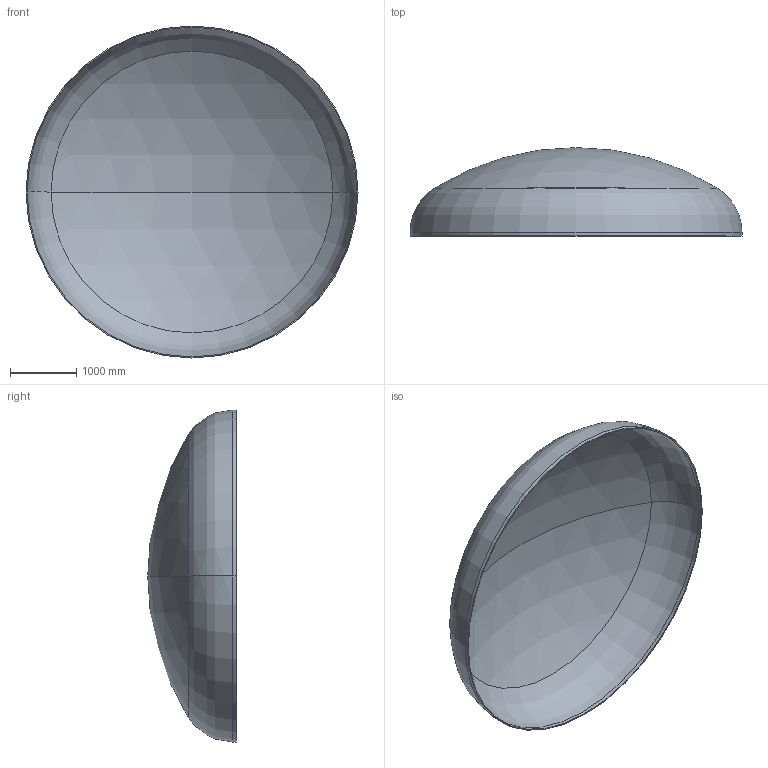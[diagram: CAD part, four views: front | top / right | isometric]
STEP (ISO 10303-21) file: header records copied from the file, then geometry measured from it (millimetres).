
FILE_DESCRIPTION (( 'STEP AP203' ), '1' );
FILE_NAME ('DIN 28013 Korbbogenform_-_Boden DIN 28013 - 5000 x 55 - I - s=16.step', '2016-07-02T00:08:31', ( '' ), ( '' ), 'SwSTEP 2.0', 'SolidWorks 2013', '' );
FILE_SCHEMA (( 'CONFIG_CONTROL_DESIGN' ));
Length unit declared in the file: millimetre
Products named in the file (1): DIN 28013 Korbbogenform_-_Boden DIN 28013 - 5000 x 55 - I - s=16
Bounding box: 5000 x 1333.28 x 5000 mm (x, y, z)
Volume: 447076612.7 mm3; surface area: 56135613.3 mm2
Topology: 1 solids, 1 shells, 13 faces, 24 edges, 14 vertices
Faces by surface type: torus 4, cylinder 4, sphere 4, plane 1
Entity records: 407 total; most frequent: DIRECTION 72, CARTESIAN_POINT 52, ORIENTED_EDGE 48, AXIS2_PLACEMENT_3D 34, EDGE_CURVE 24, CIRCLE 20, EDGE_LOOP 14, VERTEX_POINT 14
